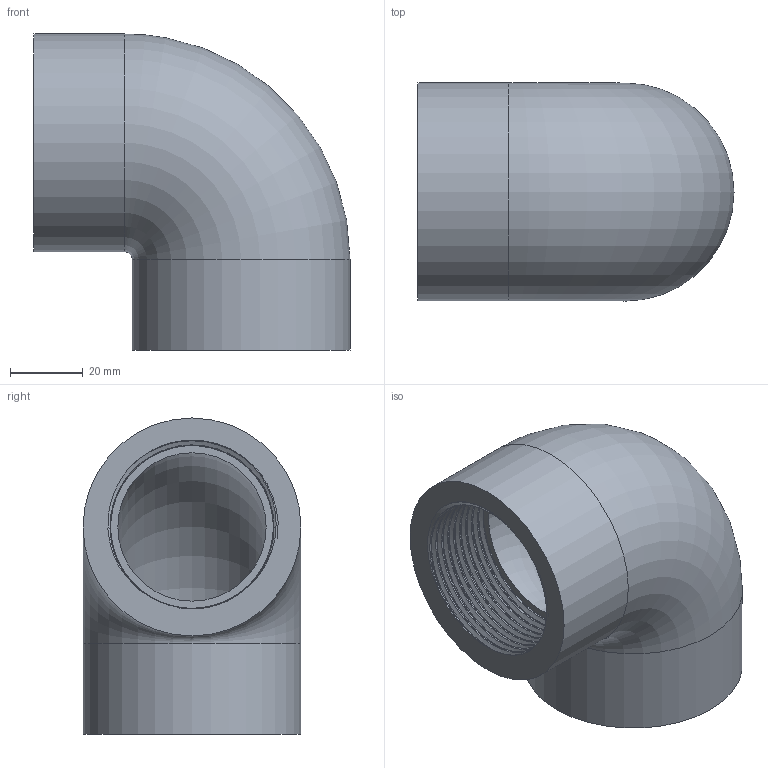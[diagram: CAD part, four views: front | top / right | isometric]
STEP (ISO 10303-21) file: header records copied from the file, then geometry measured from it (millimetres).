
FILE_DESCRIPTION(/* description */ ('PVC gomito a 90° filettato BSP femmina'),/* implementation_level */ '2;1');
FILE_NAME(/* name */ 'C:\Users\POLYPIPE\Desktop\DATASET INVENTOR\LIBRERIA EFFAST\RACCORDI 3DxWEB\RER\3D_RERGOE\3D_RERGOE050F.stp',/* time_stamp */ '2018-01-19T16:18:21+01:00',/* author */ ('POLYPIPE'),/* organization */ ('Polypipe Italia s.r.l.'),/* preprocessor_version */ 'ST-DEVELOPER v16.1',/* originating_system */ 'Autodesk Inventor 2016',/* authorisation */ '');
FILE_SCHEMA (('CONFIG_CONTROL_DESIGN'));
Length unit declared in the file: millimetre
Products named in the file (1): 3D_RERGOE
Bounding box: 87 x 60 x 87 mm (x, y, z)
Volume: 138233.4 mm3; surface area: 40651.4 mm2
Topology: 1 solids, 1 shells, 22 faces, 48 edges, 30 vertices
Faces by surface type: bspline 10, plane 6, cylinder 4, torus 2
Full cylindrical faces by diameter (mm): 60 x2
Entity records: 8034 total; most frequent: CARTESIAN_POINT 7599, ORIENTED_EDGE 92, DIRECTION 60, EDGE_CURVE 44, EDGE_LOOP 30, VERTEX_POINT 30, AXIS2_PLACEMENT_3D 27, B_SPLINE_CURVE_WITH_KNOTS 24
